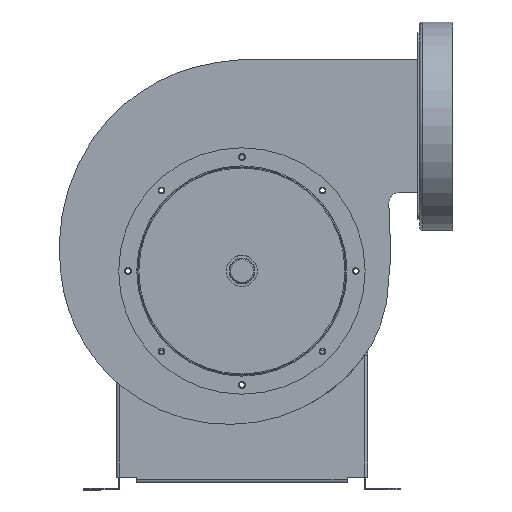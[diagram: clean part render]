
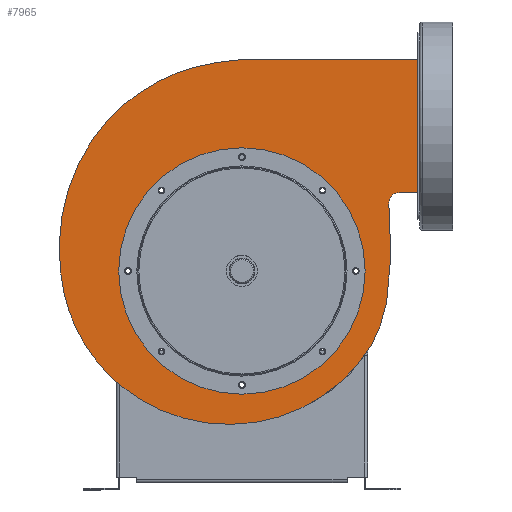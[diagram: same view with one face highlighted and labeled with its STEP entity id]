
A CAD part, front view. The second image highlights one B-rep face of the part: STEP entity #7965.
In plain terms, the highlighted planar face has unit normal (0, -1, 0).
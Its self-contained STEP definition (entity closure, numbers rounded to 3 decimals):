
#81=B_SPLINE_CURVE_WITH_KNOTS('',3,(#12079,#12080,#12081,#12082,#12083,
#12084,#12085,#12086,#12087,#12088,#12089,#12090,#12091,#12092,#12093),
 .UNSPECIFIED.,.F.,.F.,(4,1,1,1,1,1,1,1,1,1,1,1,4),(0.,0.059,
0.148,0.231,0.328,0.443,
0.51,0.578,0.632,0.76,
0.834,0.915,1.),.UNSPECIFIED.);
#294=LINE('',#11910,#979);
#314=LINE('',#11978,#999);
#319=LINE('',#12143,#1004);
#979=VECTOR('',#9436,1000.);
#999=VECTOR('',#9496,1000.);
#1004=VECTOR('',#9563,1000.);
#1757=ORIENTED_EDGE('',*,*,#4000,.F.);
#1758=ORIENTED_EDGE('',*,*,#3998,.F.);
#1759=ORIENTED_EDGE('',*,*,#3996,.F.);
#1760=ORIENTED_EDGE('',*,*,#3994,.F.);
#1761=ORIENTED_EDGE('',*,*,#3992,.F.);
#1762=ORIENTED_EDGE('',*,*,#3990,.F.);
#1763=ORIENTED_EDGE('',*,*,#3988,.F.);
#1764=ORIENTED_EDGE('',*,*,#3986,.F.);
#1765=ORIENTED_EDGE('',*,*,#3984,.F.);
#1766=ORIENTED_EDGE('',*,*,#3940,.F.);
#1767=ORIENTED_EDGE('',*,*,#4003,.F.);
#1768=ORIENTED_EDGE('',*,*,#3982,.F.);
#1769=ORIENTED_EDGE('',*,*,#3979,.F.);
#1770=ORIENTED_EDGE('',*,*,#3976,.F.);
#3940=EDGE_CURVE('',#5069,#5070,#294,.T.);
#3976=EDGE_CURVE('',#5070,#5098,#314,.T.);
#3979=EDGE_CURVE('',#5098,#5100,#5855,.T.);
#3982=EDGE_CURVE('',#5100,#5102,#81,.T.);
#3984=EDGE_CURVE('',#5103,#5103,#5856,.T.);
#3986=EDGE_CURVE('',#5105,#5105,#5858,.T.);
#3988=EDGE_CURVE('',#5107,#5107,#5860,.T.);
#3990=EDGE_CURVE('',#5109,#5109,#5862,.T.);
#3992=EDGE_CURVE('',#5111,#5111,#5864,.T.);
#3994=EDGE_CURVE('',#5113,#5113,#5866,.T.);
#3996=EDGE_CURVE('',#5115,#5115,#5868,.T.);
#3998=EDGE_CURVE('',#5117,#5117,#5870,.T.);
#4000=EDGE_CURVE('',#5119,#5119,#5872,.T.);
#4003=EDGE_CURVE('',#5102,#5069,#319,.T.);
#5069=VERTEX_POINT('',#11909);
#5070=VERTEX_POINT('',#11911);
#5098=VERTEX_POINT('',#11979);
#5100=VERTEX_POINT('',#11985);
#5102=VERTEX_POINT('',#12094);
#5103=VERTEX_POINT('',#12098);
#5105=VERTEX_POINT('',#12103);
#5107=VERTEX_POINT('',#12108);
#5109=VERTEX_POINT('',#12113);
#5111=VERTEX_POINT('',#12118);
#5113=VERTEX_POINT('',#12123);
#5115=VERTEX_POINT('',#12128);
#5117=VERTEX_POINT('',#12133);
#5119=VERTEX_POINT('',#12138);
#5855=CIRCLE('',#8531,10.);
#5856=CIRCLE('',#8533,2.5);
#5858=CIRCLE('',#8536,2.5);
#5860=CIRCLE('',#8539,2.5);
#5862=CIRCLE('',#8542,2.5);
#5864=CIRCLE('',#8545,2.5);
#5866=CIRCLE('',#8548,2.5);
#5868=CIRCLE('',#8551,2.5);
#5870=CIRCLE('',#8554,2.5);
#5872=CIRCLE('',#8557,102.5);
#6291=EDGE_LOOP('',(#1757));
#6292=EDGE_LOOP('',(#1758));
#6293=EDGE_LOOP('',(#1759));
#6294=EDGE_LOOP('',(#1760));
#6295=EDGE_LOOP('',(#1761));
#6296=EDGE_LOOP('',(#1762));
#6297=EDGE_LOOP('',(#1763));
#6298=EDGE_LOOP('',(#1764));
#6299=EDGE_LOOP('',(#1765));
#6300=EDGE_LOOP('',(#1766,#1767,#1768,#1769,#1770));
#7010=FACE_BOUND('',#6291,.T.);
#7011=FACE_BOUND('',#6292,.T.);
#7012=FACE_BOUND('',#6293,.T.);
#7013=FACE_BOUND('',#6294,.T.);
#7014=FACE_BOUND('',#6295,.T.);
#7015=FACE_BOUND('',#6296,.T.);
#7016=FACE_BOUND('',#6297,.T.);
#7017=FACE_BOUND('',#6298,.T.);
#7018=FACE_BOUND('',#6299,.T.);
#7019=FACE_BOUND('',#6300,.T.);
#7691=PLANE('',#8560);
#7965=ADVANCED_FACE('',(#7010,#7011,#7012,#7013,#7014,#7015,#7016,#7017,
#7018,#7019),#7691,.T.);
#8531=AXIS2_PLACEMENT_3D('',#11984,#9502,#9503);
#8533=AXIS2_PLACEMENT_3D('',#12097,#9508,#9509);
#8536=AXIS2_PLACEMENT_3D('',#12102,#9514,#9515);
#8539=AXIS2_PLACEMENT_3D('',#12107,#9520,#9521);
#8542=AXIS2_PLACEMENT_3D('',#12112,#9526,#9527);
#8545=AXIS2_PLACEMENT_3D('',#12117,#9532,#9533);
#8548=AXIS2_PLACEMENT_3D('',#12122,#9538,#9539);
#8551=AXIS2_PLACEMENT_3D('',#12127,#9544,#9545);
#8554=AXIS2_PLACEMENT_3D('',#12132,#9550,#9551);
#8557=AXIS2_PLACEMENT_3D('',#12137,#9556,#9557);
#8560=AXIS2_PLACEMENT_3D('',#12144,#9564,#9565);
#9436=DIRECTION('',(0.,0.,-1.));
#9496=DIRECTION('',(-1.,0.,0.));
#9502=DIRECTION('',(0.,-1.,0.));
#9503=DIRECTION('',(1.,0.,0.));
#9508=DIRECTION('',(0.,-1.,0.));
#9509=DIRECTION('',(1.,0.,0.));
#9514=DIRECTION('',(0.,-1.,0.));
#9515=DIRECTION('',(1.,0.,0.));
#9520=DIRECTION('',(0.,-1.,0.));
#9521=DIRECTION('',(1.,0.,0.));
#9526=DIRECTION('',(0.,-1.,0.));
#9527=DIRECTION('',(1.,0.,0.));
#9532=DIRECTION('',(0.,-1.,0.));
#9533=DIRECTION('',(1.,0.,0.));
#9538=DIRECTION('',(0.,-1.,0.));
#9539=DIRECTION('',(1.,0.,0.));
#9544=DIRECTION('',(0.,-1.,0.));
#9545=DIRECTION('',(1.,0.,0.));
#9550=DIRECTION('',(0.,-1.,0.));
#9551=DIRECTION('',(1.,0.,0.));
#9556=DIRECTION('',(0.,-1.,0.));
#9557=DIRECTION('',(1.,0.,0.));
#9563=DIRECTION('',(1.,0.,0.));
#9564=DIRECTION('',(0.,-1.,0.));
#9565=DIRECTION('',(0.,0.,-1.));
#11909=CARTESIAN_POINT('',(170.,-62.7,204.15));
#11910=CARTESIAN_POINT('',(170.,-62.7,204.15));
#11911=CARTESIAN_POINT('',(170.,-62.7,75.75));
#11978=CARTESIAN_POINT('',(170.,-62.7,75.75));
#11979=CARTESIAN_POINT('',(151.826,-62.7,75.75));
#11984=CARTESIAN_POINT('',(151.826,-62.7,65.75));
#11985=CARTESIAN_POINT('',(141.905,-62.7,64.49));
#12079=CARTESIAN_POINT('',(141.905,-62.7,64.49));
#12080=CARTESIAN_POINT('',(144.029,-62.7,48.434));
#12081=CARTESIAN_POINT('',(144.565,-62.7,7.469));
#12082=CARTESIAN_POINT('',(139.299,-62.7,-58.835));
#12083=CARTESIAN_POINT('',(90.377,-62.7,-119.389));
#12084=CARTESIAN_POINT('',(11.397,-62.7,-155.249));
#12085=CARTESIAN_POINT('',(-71.628,-62.7,-144.027));
#12086=CARTESIAN_POINT('',(-130.427,-62.7,-102.994));
#12087=CARTESIAN_POINT('',(-161.788,-62.7,-58.621));
#12088=CARTESIAN_POINT('',(-181.586,-62.7,9.461));
#12089=CARTESIAN_POINT('',(-172.773,-62.7,85.902));
#12090=CARTESIAN_POINT('',(-127.892,-62.7,153.21));
#12091=CARTESIAN_POINT('',(-70.513,-62.7,193.293));
#12092=CARTESIAN_POINT('',(-26.516,-62.7,202.027));
#12093=CARTESIAN_POINT('',(0.,-62.7,204.15));
#12094=CARTESIAN_POINT('',(0.,-62.7,204.15));
#12097=CARTESIAN_POINT('',(77.782,-62.7,77.782));
#12098=CARTESIAN_POINT('',(80.282,-62.7,77.782));
#12102=CARTESIAN_POINT('',(110.,-62.7,0.));
#12103=CARTESIAN_POINT('',(112.5,-62.7,0.));
#12107=CARTESIAN_POINT('',(77.782,-62.7,-77.782));
#12108=CARTESIAN_POINT('',(80.282,-62.7,-77.782));
#12112=CARTESIAN_POINT('',(0.,-62.7,-110.));
#12113=CARTESIAN_POINT('',(2.5,-62.7,-110.));
#12117=CARTESIAN_POINT('',(-77.782,-62.7,-77.782));
#12118=CARTESIAN_POINT('',(-75.282,-62.7,-77.782));
#12122=CARTESIAN_POINT('',(-110.,-62.7,0.));
#12123=CARTESIAN_POINT('',(-107.5,-62.7,0.));
#12127=CARTESIAN_POINT('',(-77.782,-62.7,77.782));
#12128=CARTESIAN_POINT('',(-75.282,-62.7,77.782));
#12132=CARTESIAN_POINT('',(0.,-62.7,110.));
#12133=CARTESIAN_POINT('',(2.5,-62.7,110.));
#12137=CARTESIAN_POINT('',(0.,-62.7,0.));
#12138=CARTESIAN_POINT('',(102.5,-62.7,0.));
#12143=CARTESIAN_POINT('',(170.,-62.7,204.15));
#12144=CARTESIAN_POINT('',(151.826,-62.7,65.75));
